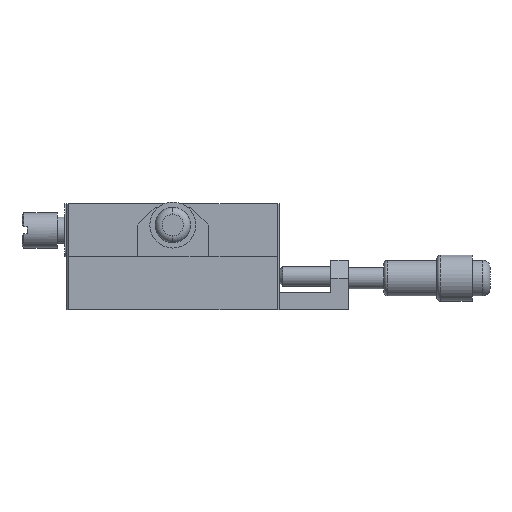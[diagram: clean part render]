
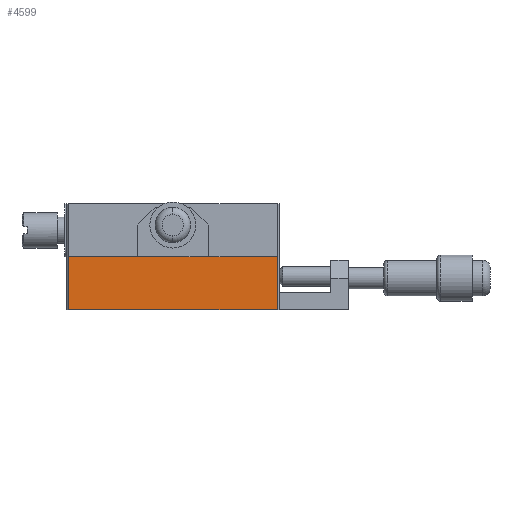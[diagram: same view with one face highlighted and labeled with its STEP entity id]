
A CAD part, left-side view. The second image highlights one B-rep face of the part: STEP entity #4599.
In plain terms, the highlighted planar face has unit normal (-1, 0, 0).
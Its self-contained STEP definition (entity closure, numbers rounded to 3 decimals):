
#36 = EDGE_CURVE ( 'NONE', #5694, #5189, #2860, .T. ) ;
#200 = ORIENTED_EDGE ( 'NONE', *, *, #6853, .T. ) ;
#342 = ORIENTED_EDGE ( 'NONE', *, *, #5570, .T. ) ;
#567 = FACE_OUTER_BOUND ( 'NONE', #4904, .T. ) ;
#1150 = DIRECTION ( 'NONE',  ( 0., 0., -1. ) ) ;
#1969 = CARTESIAN_POINT ( 'NONE',  ( -30., -30., -7.5 ) ) ;
#2269 = VERTEX_POINT ( 'NONE', #4425 ) ;
#2273 = DIRECTION ( 'NONE',  ( 1., 0., 0. ) ) ;
#2338 = VECTOR ( 'NONE', #6622, 1000. ) ;
#2855 = PLANE ( 'NONE',  #5399 ) ;
#2860 = LINE ( 'NONE', #4131, #3215 ) ;
#2967 = EDGE_CURVE ( 'NONE', #2269, #5189, #5564, .T. ) ;
#3009 = DIRECTION ( 'NONE',  ( 0., 0., 1. ) ) ;
#3215 = VECTOR ( 'NONE', #3009, 1000. ) ;
#3753 = ORIENTED_EDGE ( 'NONE', *, *, #2967, .F. ) ;
#3767 = LINE ( 'NONE', #1969, #6059 ) ;
#3959 = LINE ( 'NONE', #4412, #2338 ) ;
#4131 = CARTESIAN_POINT ( 'NONE',  ( -30., -29.5, 7.5 ) ) ;
#4214 = DIRECTION ( 'NONE',  ( 0., -1., 0. ) ) ;
#4412 = CARTESIAN_POINT ( 'NONE',  ( -30., 29.5, 7.5 ) ) ;
#4425 = CARTESIAN_POINT ( 'NONE',  ( -30., 29.5, 7.5 ) ) ;
#4599 = ADVANCED_FACE ( 'NONE', ( #567 ), #2855, .F. ) ;
#4904 = EDGE_LOOP ( 'NONE', ( #3753, #342, #200, #6039 ) ) ;
#5118 = CARTESIAN_POINT ( 'NONE',  ( -30., -29.5, 7.5 ) ) ;
#5158 = DIRECTION ( 'NONE',  ( 0., -1., 0. ) ) ;
#5189 = VERTEX_POINT ( 'NONE', #5118 ) ;
#5224 = CARTESIAN_POINT ( 'NONE',  ( -30., -30., 7.5 ) ) ;
#5399 = AXIS2_PLACEMENT_3D ( 'NONE', #5659, #2273, #1150 ) ;
#5564 = LINE ( 'NONE', #5224, #6869 ) ;
#5570 = EDGE_CURVE ( 'NONE', #2269, #7372, #3959, .T. ) ;
#5659 = CARTESIAN_POINT ( 'NONE',  ( -30., -30., 7.5 ) ) ;
#5694 = VERTEX_POINT ( 'NONE', #7286 ) ;
#6039 = ORIENTED_EDGE ( 'NONE', *, *, #36, .T. ) ;
#6059 = VECTOR ( 'NONE', #4214, 1000. ) ;
#6426 = CARTESIAN_POINT ( 'NONE',  ( -30., 29.5, -7.5 ) ) ;
#6622 = DIRECTION ( 'NONE',  ( 0., 0., -1. ) ) ;
#6853 = EDGE_CURVE ( 'NONE', #7372, #5694, #3767, .T. ) ;
#6869 = VECTOR ( 'NONE', #5158, 1000. ) ;
#7286 = CARTESIAN_POINT ( 'NONE',  ( -30., -29.5, -7.5 ) ) ;
#7372 = VERTEX_POINT ( 'NONE', #6426 ) ;
